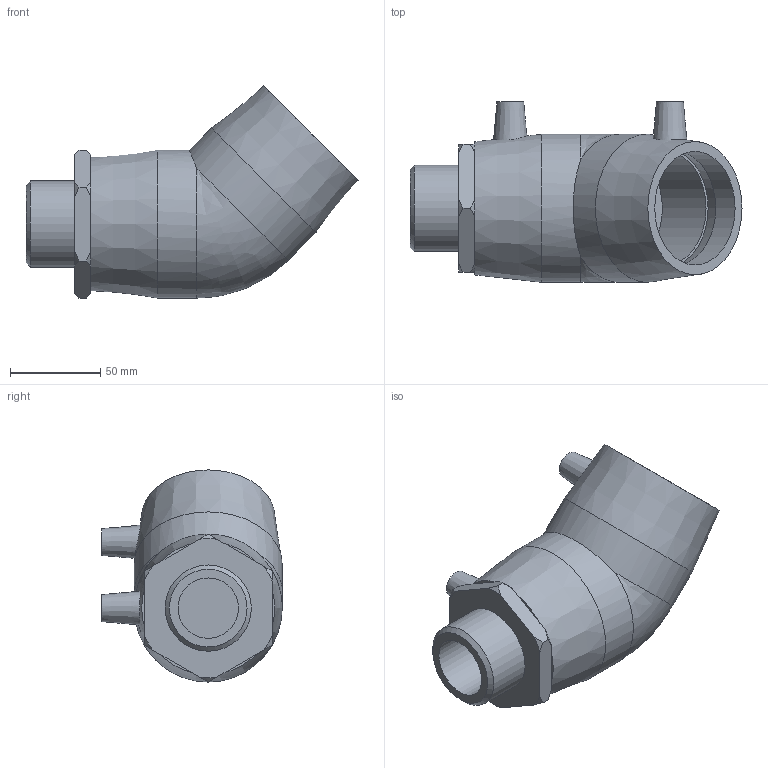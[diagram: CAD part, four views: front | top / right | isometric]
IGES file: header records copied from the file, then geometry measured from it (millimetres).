
Global section: file name: 492604063015.ipt; native system: Autodesk Inventor 2015; preprocessor: unknown; author: KIM; date: 20200202.122428; units: millimetre
Bounding box: 184 x 100 x 117.59 mm (x, y, z)
Volume: 481829.9 mm3; surface area: 85681.7 mm2
Topology: 1 solids, 2 shells, 59 faces, 142 edges, 97 vertices
Faces by surface type: plane 24, cone 17, revolution 10, cylinder 7, bspline 1
Full cylindrical faces by diameter (mm): 4 x2, 47.803 x1, 63 x2, 82 x2
